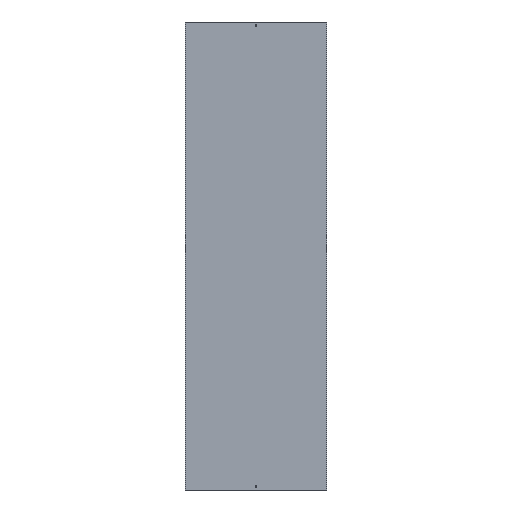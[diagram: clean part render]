
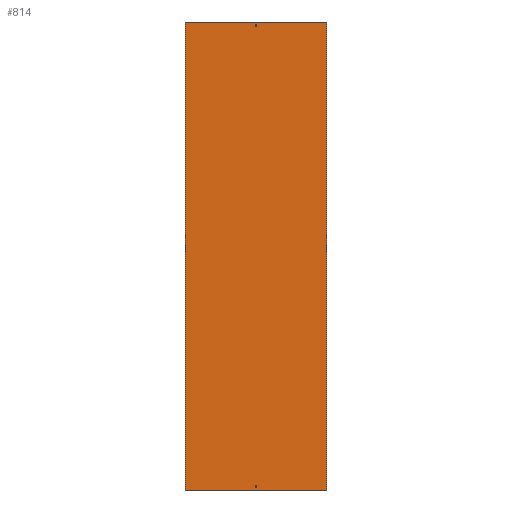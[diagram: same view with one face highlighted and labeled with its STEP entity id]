
A CAD part, front view. The second image highlights one B-rep face of the part: STEP entity #814.
In plain terms, the highlighted planar face has unit normal (0, -1, 0).
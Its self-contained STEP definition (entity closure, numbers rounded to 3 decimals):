
#15 = VECTOR ( 'NONE', #722, 1000. ) ;
#30 = ORIENTED_EDGE ( 'NONE', *, *, #2201, .T. ) ;
#84 = CARTESIAN_POINT ( 'NONE',  ( -302., 0., 1000. ) ) ;
#96 = LINE ( 'NONE', #84, #2080 ) ;
#98 = LINE ( 'NONE', #517, #2693 ) ;
#108 = DIRECTION ( 'NONE',  ( 0., 0., -1. ) ) ;
#141 = LINE ( 'NONE', #1604, #645 ) ;
#186 = CARTESIAN_POINT ( 'NONE',  ( 3.25, 0., 988. ) ) ;
#192 = LINE ( 'NONE', #1526, #284 ) ;
#205 = ORIENTED_EDGE ( 'NONE', *, *, #336, .F. ) ;
#219 = DIRECTION ( 'NONE',  ( -1., 0., 0. ) ) ;
#255 = ORIENTED_EDGE ( 'NONE', *, *, #1609, .F. ) ;
#274 = DIRECTION ( 'NONE',  ( 1., 0., 0. ) ) ;
#278 = VERTEX_POINT ( 'NONE', #2618 ) ;
#284 = VECTOR ( 'NONE', #219, 1000. ) ;
#308 = ORIENTED_EDGE ( 'NONE', *, *, #1708, .F. ) ;
#317 = EDGE_CURVE ( 'NONE', #797, #2536, #98, .T. ) ;
#321 = EDGE_CURVE ( 'NONE', #679, #2537, #1202, .T. ) ;
#335 = VERTEX_POINT ( 'NONE', #1612 ) ;
#336 = EDGE_CURVE ( 'NONE', #980, #797, #764, .T. ) ;
#407 = LINE ( 'NONE', #2539, #595 ) ;
#517 = CARTESIAN_POINT ( 'NONE',  ( -3.25, 0., 979. ) ) ;
#556 = VECTOR ( 'NONE', #793, 1000. ) ;
#579 = CARTESIAN_POINT ( 'NONE',  ( -302., 0., 1000. ) ) ;
#590 = FACE_BOUND ( 'NONE', #2685, .T. ) ;
#595 = VECTOR ( 'NONE', #815, 1000. ) ;
#645 = VECTOR ( 'NONE', #769, 1000. ) ;
#679 = VERTEX_POINT ( 'NONE', #707 ) ;
#707 = CARTESIAN_POINT ( 'NONE',  ( -3.25, 0., -988. ) ) ;
#722 = DIRECTION ( 'NONE',  ( 0., 0., 1. ) ) ;
#738 = EDGE_LOOP ( 'NONE', ( #2655, #205, #255, #1653 ) ) ;
#753 = DIRECTION ( 'NONE',  ( 0., 0., -1. ) ) ;
#764 = LINE ( 'NONE', #1623, #2027 ) ;
#769 = DIRECTION ( 'NONE',  ( 1., 0., 0. ) ) ;
#793 = DIRECTION ( 'NONE',  ( 0., 0., -1. ) ) ;
#797 = VERTEX_POINT ( 'NONE', #1395 ) ;
#814 = ADVANCED_FACE ( 'NONE', ( #2512, #2710, #590 ), #1651, .F. ) ;
#815 = DIRECTION ( 'NONE',  ( 1., 0., 0. ) ) ;
#867 = EDGE_CURVE ( 'NONE', #2537, #1246, #407, .T. ) ;
#887 = LINE ( 'NONE', #2232, #2396 ) ;
#896 = CARTESIAN_POINT ( 'NONE',  ( -3.25, 0., -979. ) ) ;
#922 = CARTESIAN_POINT ( 'NONE',  ( -302., 0., 1000. ) ) ;
#962 = DIRECTION ( 'NONE',  ( -1., 0., 0. ) ) ;
#980 = VERTEX_POINT ( 'NONE', #2417 ) ;
#996 = ORIENTED_EDGE ( 'NONE', *, *, #321, .T. ) ;
#1012 = CARTESIAN_POINT ( 'NONE',  ( 302., 0., 1000. ) ) ;
#1040 = AXIS2_PLACEMENT_3D ( 'NONE', #579, #2290, #962 ) ;
#1055 = CARTESIAN_POINT ( 'NONE',  ( 302., 0., 1000. ) ) ;
#1059 = CARTESIAN_POINT ( 'NONE',  ( 3.25, 0., 988. ) ) ;
#1065 = LINE ( 'NONE', #186, #1680 ) ;
#1146 = CARTESIAN_POINT ( 'NONE',  ( -302., 0., -1000. ) ) ;
#1187 = VECTOR ( 'NONE', #2272, 1000. ) ;
#1188 = CARTESIAN_POINT ( 'NONE',  ( -3.25, 0., -988. ) ) ;
#1202 = LINE ( 'NONE', #1188, #15 ) ;
#1246 = VERTEX_POINT ( 'NONE', #2370 ) ;
#1263 = DIRECTION ( 'NONE',  ( 0., 0., 1. ) ) ;
#1313 = ORIENTED_EDGE ( 'NONE', *, *, #2679, .T. ) ;
#1395 = CARTESIAN_POINT ( 'NONE',  ( -3.25, 0., 979. ) ) ;
#1442 = LINE ( 'NONE', #1884, #556 ) ;
#1526 = CARTESIAN_POINT ( 'NONE',  ( -3.25, 0., 988. ) ) ;
#1553 = VERTEX_POINT ( 'NONE', #1059 ) ;
#1604 = CARTESIAN_POINT ( 'NONE',  ( -302., 0., -1000. ) ) ;
#1609 = EDGE_CURVE ( 'NONE', #1553, #980, #192, .T. ) ;
#1612 = CARTESIAN_POINT ( 'NONE',  ( 3.25, 0., -988. ) ) ;
#1623 = CARTESIAN_POINT ( 'NONE',  ( -3.25, 0., 988. ) ) ;
#1651 = PLANE ( 'NONE',  #1040 ) ;
#1653 = ORIENTED_EDGE ( 'NONE', *, *, #2429, .F. ) ;
#1680 = VECTOR ( 'NONE', #1263, 1000. ) ;
#1708 = EDGE_CURVE ( 'NONE', #2550, #2113, #96, .T. ) ;
#1742 = CARTESIAN_POINT ( 'NONE',  ( 3.25, 0., 979. ) ) ;
#1780 = EDGE_CURVE ( 'NONE', #2550, #1787, #2012, .T. ) ;
#1782 = ORIENTED_EDGE ( 'NONE', *, *, #867, .T. ) ;
#1787 = VERTEX_POINT ( 'NONE', #1146 ) ;
#1835 = ORIENTED_EDGE ( 'NONE', *, *, #2731, .F. ) ;
#1844 = DIRECTION ( 'NONE',  ( 1., 0., 0. ) ) ;
#1884 = CARTESIAN_POINT ( 'NONE',  ( 3.25, 0., -988. ) ) ;
#1912 = EDGE_CURVE ( 'NONE', #1246, #335, #1442, .T. ) ;
#1981 = DIRECTION ( 'NONE',  ( -1., 0., 0. ) ) ;
#2012 = LINE ( 'NONE', #922, #2568 ) ;
#2027 = VECTOR ( 'NONE', #753, 1000. ) ;
#2076 = LINE ( 'NONE', #1012, #1187 ) ;
#2080 = VECTOR ( 'NONE', #274, 1000. ) ;
#2113 = VERTEX_POINT ( 'NONE', #1055 ) ;
#2144 = ORIENTED_EDGE ( 'NONE', *, *, #1912, .T. ) ;
#2164 = ORIENTED_EDGE ( 'NONE', *, *, #1780, .T. ) ;
#2201 = EDGE_CURVE ( 'NONE', #335, #679, #887, .T. ) ;
#2232 = CARTESIAN_POINT ( 'NONE',  ( -3.25, 0., -988. ) ) ;
#2272 = DIRECTION ( 'NONE',  ( 0., 0., -1. ) ) ;
#2290 = DIRECTION ( 'NONE',  ( 0., 1., 0. ) ) ;
#2370 = CARTESIAN_POINT ( 'NONE',  ( 3.25, 0., -979. ) ) ;
#2396 = VECTOR ( 'NONE', #1981, 1000. ) ;
#2417 = CARTESIAN_POINT ( 'NONE',  ( -3.25, 0., 988. ) ) ;
#2429 = EDGE_CURVE ( 'NONE', #2536, #1553, #1065, .T. ) ;
#2512 = FACE_OUTER_BOUND ( 'NONE', #2756, .T. ) ;
#2536 = VERTEX_POINT ( 'NONE', #1742 ) ;
#2537 = VERTEX_POINT ( 'NONE', #896 ) ;
#2539 = CARTESIAN_POINT ( 'NONE',  ( -3.25, 0., -979. ) ) ;
#2550 = VERTEX_POINT ( 'NONE', #2606 ) ;
#2568 = VECTOR ( 'NONE', #108, 1000. ) ;
#2606 = CARTESIAN_POINT ( 'NONE',  ( -302., 0., 1000. ) ) ;
#2618 = CARTESIAN_POINT ( 'NONE',  ( 302., 0., -1000. ) ) ;
#2655 = ORIENTED_EDGE ( 'NONE', *, *, #317, .F. ) ;
#2679 = EDGE_CURVE ( 'NONE', #1787, #278, #141, .T. ) ;
#2685 = EDGE_LOOP ( 'NONE', ( #996, #1782, #2144, #30 ) ) ;
#2693 = VECTOR ( 'NONE', #1844, 1000. ) ;
#2710 = FACE_BOUND ( 'NONE', #738, .T. ) ;
#2731 = EDGE_CURVE ( 'NONE', #2113, #278, #2076, .T. ) ;
#2756 = EDGE_LOOP ( 'NONE', ( #1313, #1835, #308, #2164 ) ) ;
